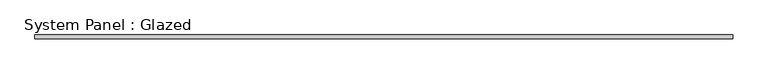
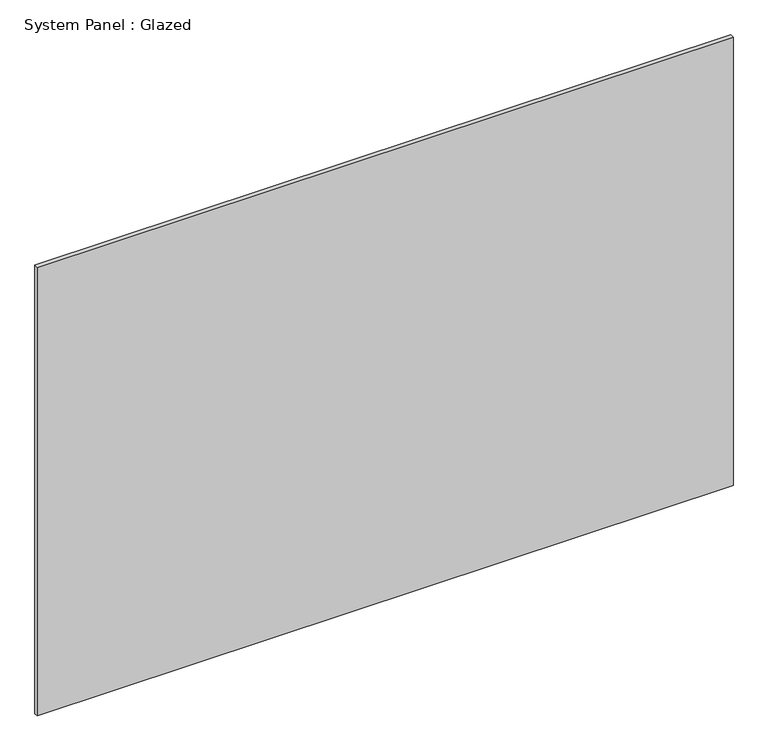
"""IFC4 building model written with IfcOpenShell, lengths in millimetres: plate geometry, System Panel : Glazed."""

from ifc_helpers import new_model, si_unit, origin, origin_with_axes, place, context, project, spatial, polyline, outline, extrude, source, transform, mapped, element, save


def system_panel_glazed_77ba1f36(model_context):
    return source(origin(), model_context, "Body", "SweptSolid", [
        extrude(outline(polyline([(2235.2, 19.05), (-2235.2, 19.05), (-2235.2, 44.45), (2235.2, 44.45), (2235.2, 19.05)])), origin_with_axes(), (0.0, 0.0, 1.0), 3048.0),
    ])


if __name__ == "__main__":
    model = new_model("IFC4")
    model_context = context("Model", 3, world=origin())
    ifc_project = project(units=[si_unit("LENGTHUNIT", "METRE", prefix="MILLI")], contexts=[model_context])
    site = spatial("IfcSite", under=ifc_project)
    building = spatial("IfcBuilding", under=site)
    placement = place(None, origin())
    system_panel_glazed_shape = system_panel_glazed_77ba1f36(model_context)
    element("IfcPlate", 1, ObjectType="System Panel : Glazed", at=placement, inside=building, context=model_context, shape_type="MappedRepresentation", body=[
        mapped(system_panel_glazed_shape, transform((0.0, 0.0, 0.0), x_axis=(1.0, 0.0, 0.0), y_axis=(0.0, 1.0, 0.0), z_axis=(0.0, 0.0, 1.0))),
    ])
    save(model, "model.ifc")
